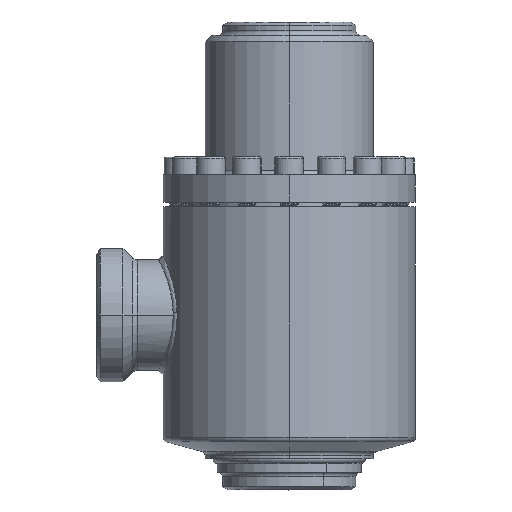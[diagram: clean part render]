
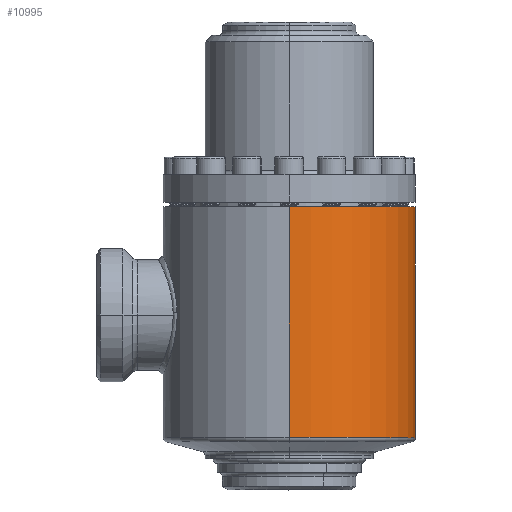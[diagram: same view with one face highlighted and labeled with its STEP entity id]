
A CAD part, top view. The second image highlights one B-rep face of the part: STEP entity #10995.
In plain terms, the highlighted cylindrical face has radius 57 mm (diameter 114 mm), a partial arc.
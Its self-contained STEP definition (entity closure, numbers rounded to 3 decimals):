
#16942 = CIRCLE ( 'NONE', #16943, 57. ) ;
#16943 = AXIS2_PLACEMENT_3D ( 'NONE', #16944, #16964, #16965 ) ;
#16944 = CARTESIAN_POINT ( 'NONE',  ( 0., 80.527, 0. ) ) ;
#16964 = DIRECTION ( 'NONE',  ( 0., 1., 0. ) ) ;
#16965 = DIRECTION ( 'NONE',  ( 0., 0., 1. ) ) ;
#18173 = FACE_OUTER_BOUND ( 'NONE', #10904, .T. ) ;
#18174 = CYLINDRICAL_SURFACE ( 'NONE', #18175, 57. ) ;
#18175 = AXIS2_PLACEMENT_3D ( 'NONE', #18176, #18177, #18178 ) ;
#18176 = CARTESIAN_POINT ( 'NONE',  ( 0., 76.795, 0. ) ) ;
#18177 = DIRECTION ( 'NONE',  ( 0., 1., 0. ) ) ;
#18178 = DIRECTION ( 'NONE',  ( 0., 0., 1. ) ) ;
#18707 = VERTEX_POINT ( 'NONE', #9459 ) ;
#2537 = ORIENTED_EDGE ( 'NONE', *, *, #9488, .T. ) ;
#19148 = CIRCLE ( 'NONE', #19149, 57. ) ;
#19149 = AXIS2_PLACEMENT_3D ( 'NONE', #19150, #19151, #19152 ) ;
#19150 = CARTESIAN_POINT ( 'NONE',  ( 0., -23.847, 0. ) ) ;
#19151 = DIRECTION ( 'NONE',  ( 0., 1., 0. ) ) ;
#19152 = DIRECTION ( 'NONE',  ( 0., 0., 1. ) ) ;
#3580 = VERTEX_POINT ( 'NONE', #3871 ) ;
#3871 = CARTESIAN_POINT ( 'NONE',  ( 0., -23.847, 57. ) ) ;
#20253 = EDGE_CURVE ( 'NONE', #3580, #18707, #19148, .T. ) ;
#20261 = LINE ( 'NONE', #20262, #20263 ) ;
#20262 = CARTESIAN_POINT ( 'NONE',  ( 0., 76.795, 57. ) ) ;
#20263 = VECTOR ( 'NONE', #20264, 1000. ) ;
#20264 = DIRECTION ( 'NONE',  ( 0., 1., 0. ) ) ;
#21145 = ORIENTED_EDGE ( 'NONE', *, *, #10507, .F. ) ;
#21347 = CARTESIAN_POINT ( 'NONE',  ( 0., 80.527, -57. ) ) ;
#22111 = VERTEX_POINT ( 'NONE', #21347 ) ;
#6947 = ORIENTED_EDGE ( 'NONE', *, *, #20253, .T. ) ;
#23593 = LINE ( 'NONE', #23594, #23595 ) ;
#23594 = CARTESIAN_POINT ( 'NONE',  ( 0., 76.795, -57. ) ) ;
#23595 = VECTOR ( 'NONE', #23596, 1000. ) ;
#23596 = DIRECTION ( 'NONE',  ( 0., 1., 0. ) ) ;
#9459 = CARTESIAN_POINT ( 'NONE',  ( 0., -23.847, -57. ) ) ;
#9488 = EDGE_CURVE ( 'NONE', #18707, #22111, #23593, .T. ) ;
#10275 = VERTEX_POINT ( 'NONE', #16253 ) ;
#10507 = EDGE_CURVE ( 'NONE', #10275, #22111, #16942, .T. ) ;
#10904 = EDGE_LOOP ( 'NONE', ( #6947, #2537, #21145, #12554 ) ) ;
#10995 = ADVANCED_FACE ( 'NONE', ( #18173 ), #18174, .T. ) ;
#12220 = EDGE_CURVE ( 'NONE', #3580, #10275, #20261, .T. ) ;
#12554 = ORIENTED_EDGE ( 'NONE', *, *, #12220, .F. ) ;
#16253 = CARTESIAN_POINT ( 'NONE',  ( 0., 80.527, 57. ) ) ;
